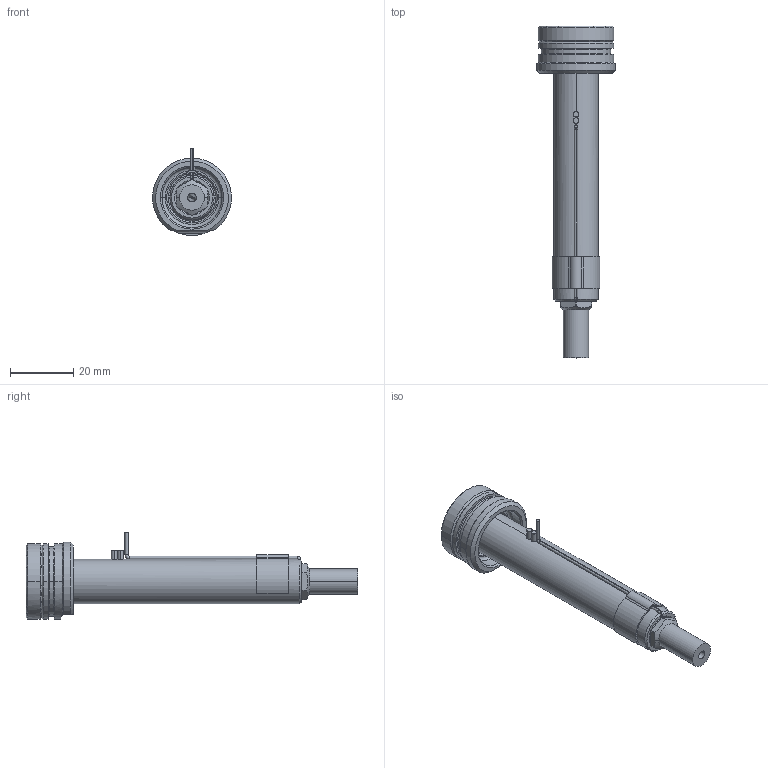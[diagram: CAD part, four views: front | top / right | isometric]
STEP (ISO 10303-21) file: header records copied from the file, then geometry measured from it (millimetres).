
FILE_DESCRIPTION((''),'2;1');
FILE_NAME('EO04_PG-FBE_WR_080_SW','2024-02-19T11:47:47',('sundharh'),(''),'CREO PARAMETRIC BY PTC INC, 2023154','CREO PARAMETRIC BY PTC INC, 2023154','');
FILE_SCHEMA(('CONFIG_CONTROL_DESIGN'));
Length unit declared in the file: millimetre
Products named in the file (1): EO04_PG-FBE_WR_080_SW
Bounding box: 24.99 x 105 x 27.5 mm (x, y, z)
Volume: 17085.9 mm3; surface area: 9002 mm2
Topology: 2 solids, 2 shells, 225 faces, 603 edges, 368 vertices
Faces by surface type: cylinder 84, plane 59, cone 46, torus 22, bspline 11, sphere 3
Entity records: 8243 total; most frequent: CARTESIAN_POINT 2569, DIRECTION 1235, ORIENTED_EDGE 1190, EDGE_CURVE 595, AXIS2_PLACEMENT_3D 518, VERTEX_POINT 368, CIRCLE 304, EDGE_LOOP 241
